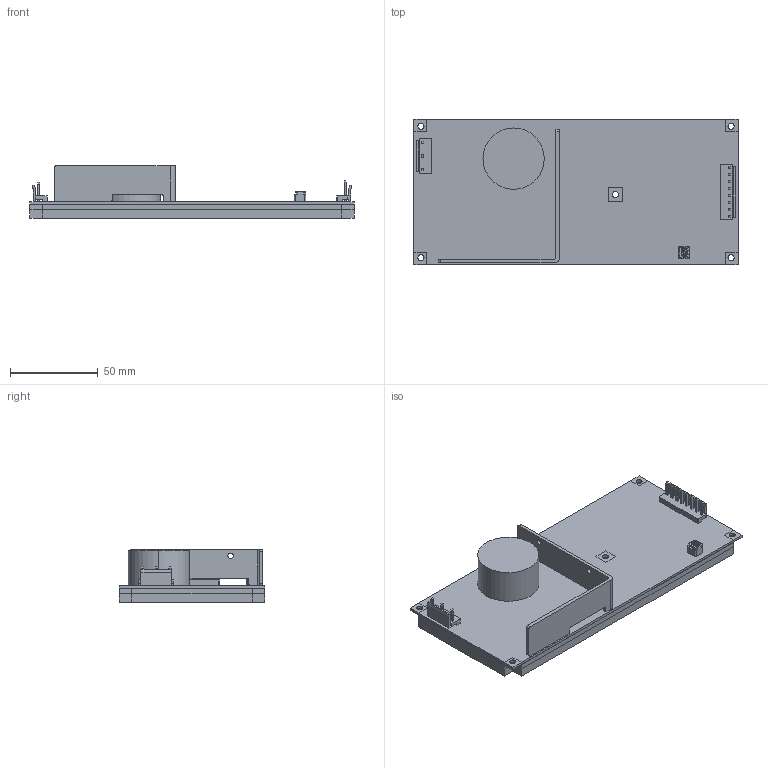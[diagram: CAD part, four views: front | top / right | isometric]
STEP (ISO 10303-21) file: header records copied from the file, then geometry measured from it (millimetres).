
FILE_DESCRIPTION(('OneSpaceDesigner STEP Export'),'2;1');
FILE_NAME('mtw60w_outline_stp.stp','2010-01-26T 9:15:37',(''),(''),'OneSpace Designer STEP processor for AP214 (Solid Model)','OneSpace Designer 14.00B 27-May-2006 (C) CoCreate Software GmbH','');
FILE_SCHEMA(('AUTOMOTIVE_DESIGN { 1 0 10303 214 1 1 1 1 }'));
Length unit declared in the file: millimetre
Products named in the file (4): SA910; SA920; SA930; SA901_G111
Assembly tree (3 placements, depth 2):
  SA901_G111
    SA930
    SA920
    SA910
Bounding box: 185 x 83 x 30.1 mm (x, y, z)
Volume: 171292.6 mm3; surface area: 106435.4 mm2
Topology: 3 solids, 3 shells, 394 faces, 1064 edges, 692 vertices
Faces by surface type: plane 314, cylinder 80
Entity records: 14632 total; most frequent: ORIENTED_EDGE 2128, CARTESIAN_POINT 2062, DIRECTION 1855, EDGE_CURVE 1064, VECTOR 885, LINE 885, VERTEX_POINT 692, AXIS2_PLACEMENT_3D 485
